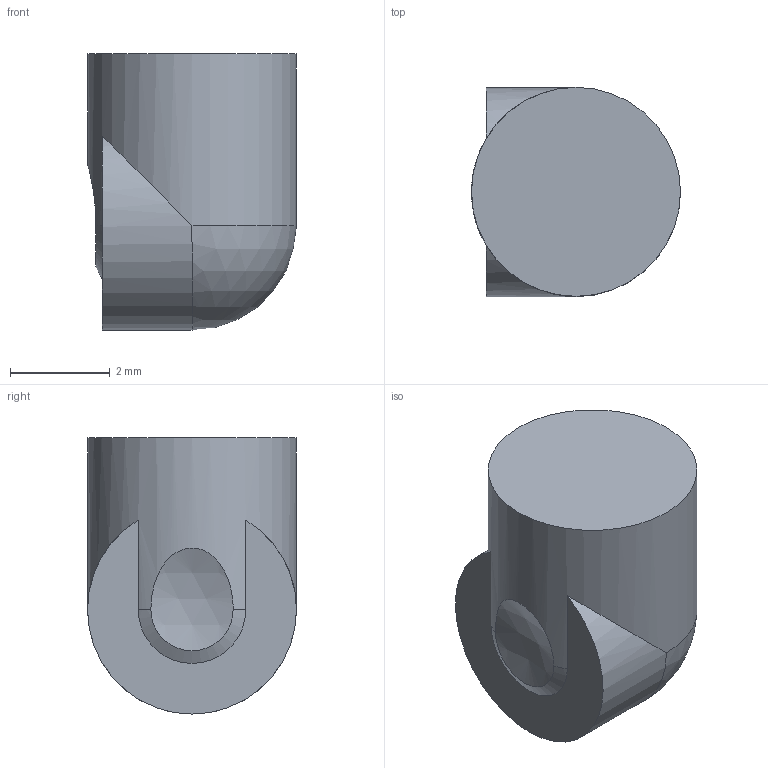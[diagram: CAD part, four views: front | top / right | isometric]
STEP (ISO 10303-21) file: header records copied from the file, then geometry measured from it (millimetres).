
FILE_DESCRIPTION(('Open CASCADE Model'),'2;1');
FILE_NAME('C27_R2_Internal_Right_Angle_Light_Coupler', '2026-09-09T17:52:57',('Author'),('Open CASCADE'), 'Open CASCADE STEP processor 7.9','build123d','Unknown');
FILE_SCHEMA(('AUTOMOTIVE_DESIGN { 1 0 10303 214 1 1 1 1 }'));
Length unit declared in the file: millimetre
Products named in the file (1): C27_R2_Internal_Right_Angle_Light_Coupler
Bounding box: 4.2 x 4.2 x 5.55 mm (x, y, z)
Volume: 70.9 mm3; surface area: 94 mm2
Topology: 1 solids, 1 shells, 7 faces, 17 edges, 11 vertices
Faces by surface type: sphere 3, cylinder 2, plane 2
Full cylindrical faces by diameter (mm): 4.2 x1
Entity records: 781 total; most frequent: CARTESIAN_POINT 460, DIRECTION 56, ORIENTED_EDGE 32, PCURVE 32, DEFINITIONAL_REPRESENTATION 32, AXIS2_PLACEMENT_3D 20, B_SPLINE_CURVE_WITH_KNOTS 20, EDGE_CURVE 16
